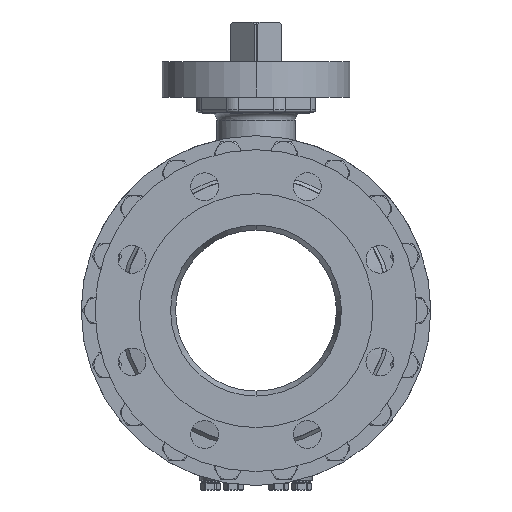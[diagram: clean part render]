
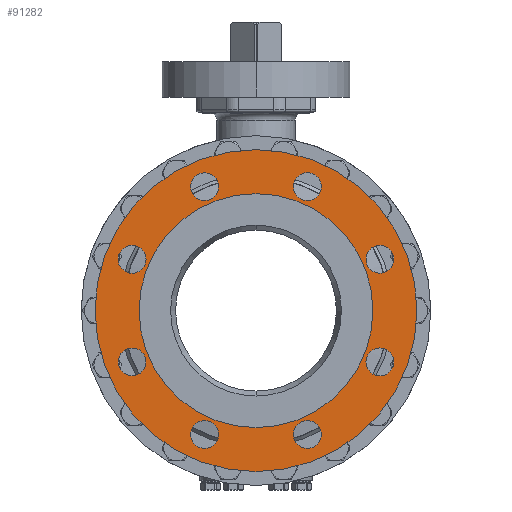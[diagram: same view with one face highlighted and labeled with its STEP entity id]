
A CAD part, left-side view. The second image highlights one B-rep face of the part: STEP entity #91282.
In plain terms, the highlighted planar face has unit normal (-1, 0, 0).
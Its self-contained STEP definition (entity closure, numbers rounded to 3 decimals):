
#14518=CARTESIAN_POINT('',(-198.5,0.,0.));
#14519=DIRECTION('',(-1.,0.,0.));
#14520=DIRECTION('',(0.,0.,1.));
#14521=AXIS2_PLACEMENT_3D('',#14518,#14519,#14520);
#14523=CARTESIAN_POINT('',(-198.5,0.,0.));
#14524=DIRECTION('',(-1.,0.,0.));
#14525=DIRECTION('',(0.,0.,-1.));
#14526=AXIS2_PLACEMENT_3D('',#14523,#14524,#14525);
#14528=CARTESIAN_POINT('',(-198.5,-47.835,115.485));
#14529=DIRECTION('',(-1.,0.,0.));
#14530=DIRECTION('',(0.,-1.,0.));
#14531=AXIS2_PLACEMENT_3D('',#14528,#14529,#14530);
#14533=CARTESIAN_POINT('',(-198.5,-47.835,115.485));
#14534=DIRECTION('',(-1.,0.,0.));
#14535=DIRECTION('',(0.,1.,0.));
#14536=AXIS2_PLACEMENT_3D('',#14533,#14534,#14535);
#14538=CARTESIAN_POINT('',(-198.5,47.835,115.485));
#14539=DIRECTION('',(-1.,0.,0.));
#14540=DIRECTION('',(0.,-0.707,0.707));
#14541=AXIS2_PLACEMENT_3D('',#14538,#14539,#14540);
#14543=CARTESIAN_POINT('',(-198.5,47.835,115.485));
#14544=DIRECTION('',(-1.,0.,0.));
#14545=DIRECTION('',(0.,0.707,-0.707));
#14546=AXIS2_PLACEMENT_3D('',#14543,#14544,#14545);
#14548=CARTESIAN_POINT('',(-198.5,115.485,47.835));
#14549=DIRECTION('',(-1.,0.,0.));
#14550=DIRECTION('',(0.,0.,1.));
#14551=AXIS2_PLACEMENT_3D('',#14548,#14549,#14550);
#14553=CARTESIAN_POINT('',(-198.5,115.485,47.835));
#14554=DIRECTION('',(-1.,0.,0.));
#14555=DIRECTION('',(0.,0.,-1.));
#14556=AXIS2_PLACEMENT_3D('',#14553,#14554,#14555);
#14558=CARTESIAN_POINT('',(-198.5,115.485,-47.835));
#14559=DIRECTION('',(-1.,0.,0.));
#14560=DIRECTION('',(0.,0.707,0.707));
#14561=AXIS2_PLACEMENT_3D('',#14558,#14559,#14560);
#14563=CARTESIAN_POINT('',(-198.5,115.485,-47.835));
#14564=DIRECTION('',(-1.,0.,0.));
#14565=DIRECTION('',(0.,-0.707,-0.707));
#14566=AXIS2_PLACEMENT_3D('',#14563,#14564,#14565);
#14568=CARTESIAN_POINT('',(-198.5,47.835,-115.485));
#14569=DIRECTION('',(-1.,0.,0.));
#14570=DIRECTION('',(0.,1.,0.));
#14571=AXIS2_PLACEMENT_3D('',#14568,#14569,#14570);
#14573=CARTESIAN_POINT('',(-198.5,47.835,-115.485));
#14574=DIRECTION('',(-1.,0.,0.));
#14575=DIRECTION('',(0.,-1.,0.));
#14576=AXIS2_PLACEMENT_3D('',#14573,#14574,#14575);
#14578=CARTESIAN_POINT('',(-198.5,-47.835,-115.485));
#14579=DIRECTION('',(-1.,0.,0.));
#14580=DIRECTION('',(0.,0.707,-0.707));
#14581=AXIS2_PLACEMENT_3D('',#14578,#14579,#14580);
#14583=CARTESIAN_POINT('',(-198.5,-47.835,-115.485));
#14584=DIRECTION('',(-1.,0.,0.));
#14585=DIRECTION('',(0.,-0.707,0.707));
#14586=AXIS2_PLACEMENT_3D('',#14583,#14584,#14585);
#14588=CARTESIAN_POINT('',(-198.5,-115.485,-47.835));
#14589=DIRECTION('',(-1.,0.,0.));
#14590=DIRECTION('',(0.,0.,-1.));
#14591=AXIS2_PLACEMENT_3D('',#14588,#14589,#14590);
#14593=CARTESIAN_POINT('',(-198.5,-115.485,-47.835));
#14594=DIRECTION('',(-1.,0.,0.));
#14595=DIRECTION('',(0.,0.,1.));
#14596=AXIS2_PLACEMENT_3D('',#14593,#14594,#14595);
#14598=CARTESIAN_POINT('',(-198.5,-115.485,47.835));
#14599=DIRECTION('',(-1.,0.,0.));
#14600=DIRECTION('',(0.,-0.707,-0.707));
#14601=AXIS2_PLACEMENT_3D('',#14598,#14599,#14600);
#14603=CARTESIAN_POINT('',(-198.5,-115.485,47.835));
#14604=DIRECTION('',(-1.,0.,0.));
#14605=DIRECTION('',(0.,0.707,0.707));
#14606=AXIS2_PLACEMENT_3D('',#14603,#14604,#14605);
#14612=CARTESIAN_POINT('',(-198.5,0.,0.));
#14613=DIRECTION('',(-1.,0.,0.));
#14614=DIRECTION('',(0.,0.,1.));
#14615=AXIS2_PLACEMENT_3D('',#14612,#14613,#14614);
#14641=CARTESIAN_POINT('',(-198.5,0.,0.));
#14642=DIRECTION('',(1.,0.,0.));
#14643=DIRECTION('',(0.,0.,1.));
#14644=AXIS2_PLACEMENT_3D('',#14641,#14642,#14643);
#57965=CARTESIAN_POINT('',(-198.5,0.,109.));
#57966=CARTESIAN_POINT('',(-198.5,0.,-109.));
#57967=VERTEX_POINT('',#57965);
#57968=VERTEX_POINT('',#57966);
#57969=CARTESIAN_POINT('',(-198.5,0.,150.));
#57970=CARTESIAN_POINT('',(-198.5,0.,-150.));
#57971=VERTEX_POINT('',#57969);
#57972=VERTEX_POINT('',#57970);
#57981=CARTESIAN_POINT('',(-198.5,-60.835,115.485));
#57982=CARTESIAN_POINT('',(-198.5,-34.835,115.485));
#57983=VERTEX_POINT('',#57981);
#57984=VERTEX_POINT('',#57982);
#57989=CARTESIAN_POINT('',(-198.5,38.643,124.677));
#57990=CARTESIAN_POINT('',(-198.5,57.028,106.293));
#57991=VERTEX_POINT('',#57989);
#57992=VERTEX_POINT('',#57990);
#57997=CARTESIAN_POINT('',(-198.5,115.485,60.835));
#57998=CARTESIAN_POINT('',(-198.5,115.485,34.835));
#57999=VERTEX_POINT('',#57997);
#58000=VERTEX_POINT('',#57998);
#58005=CARTESIAN_POINT('',(-198.5,124.677,-38.643));
#58006=CARTESIAN_POINT('',(-198.5,106.293,-57.028));
#58007=VERTEX_POINT('',#58005);
#58008=VERTEX_POINT('',#58006);
#58013=CARTESIAN_POINT('',(-198.5,60.835,-115.485));
#58014=CARTESIAN_POINT('',(-198.5,34.835,-115.485));
#58015=VERTEX_POINT('',#58013);
#58016=VERTEX_POINT('',#58014);
#58021=CARTESIAN_POINT('',(-198.5,-38.643,-124.677));
#58022=CARTESIAN_POINT('',(-198.5,-57.028,-106.293));
#58023=VERTEX_POINT('',#58021);
#58024=VERTEX_POINT('',#58022);
#58029=CARTESIAN_POINT('',(-198.5,-115.485,-60.835));
#58030=CARTESIAN_POINT('',(-198.5,-115.485,-34.835));
#58031=VERTEX_POINT('',#58029);
#58032=VERTEX_POINT('',#58030);
#58037=CARTESIAN_POINT('',(-198.5,-124.677,38.643));
#58038=CARTESIAN_POINT('',(-198.5,-106.293,57.028));
#58039=VERTEX_POINT('',#58037);
#58040=VERTEX_POINT('',#58038);
#91218=CARTESIAN_POINT('',(-198.5,0.,0.));
#91219=DIRECTION('',(1.,0.,0.));
#91220=DIRECTION('',(0.,0.,1.));
#91221=AXIS2_PLACEMENT_3D('',#91218,#91219,#91220);
#91222=PLANE('',#91221);
#91224=ORIENTED_EDGE('',*,*,#91223,.F.);
#91225=ORIENTED_EDGE('',*,*,#91208,.F.);
#91226=EDGE_LOOP('',(#91224,#91225));
#91227=FACE_OUTER_BOUND('',#91226,.F.);
#91229=ORIENTED_EDGE('',*,*,#91228,.T.);
#91231=ORIENTED_EDGE('',*,*,#91230,.F.);
#91232=EDGE_LOOP('',(#91229,#91231));
#91233=FACE_BOUND('',#91232,.F.);
#91235=ORIENTED_EDGE('',*,*,#91234,.T.);
#91237=ORIENTED_EDGE('',*,*,#91236,.T.);
#91238=EDGE_LOOP('',(#91235,#91237));
#91239=FACE_BOUND('',#91238,.F.);
#91241=ORIENTED_EDGE('',*,*,#91240,.T.);
#91243=ORIENTED_EDGE('',*,*,#91242,.T.);
#91244=EDGE_LOOP('',(#91241,#91243));
#91245=FACE_BOUND('',#91244,.F.);
#91247=ORIENTED_EDGE('',*,*,#91246,.T.);
#91249=ORIENTED_EDGE('',*,*,#91248,.T.);
#91250=EDGE_LOOP('',(#91247,#91249));
#91251=FACE_BOUND('',#91250,.F.);
#91253=ORIENTED_EDGE('',*,*,#91252,.T.);
#91255=ORIENTED_EDGE('',*,*,#91254,.T.);
#91256=EDGE_LOOP('',(#91253,#91255));
#91257=FACE_BOUND('',#91256,.F.);
#91259=ORIENTED_EDGE('',*,*,#91258,.T.);
#91261=ORIENTED_EDGE('',*,*,#91260,.T.);
#91262=EDGE_LOOP('',(#91259,#91261));
#91263=FACE_BOUND('',#91262,.F.);
#91265=ORIENTED_EDGE('',*,*,#91264,.T.);
#91267=ORIENTED_EDGE('',*,*,#91266,.T.);
#91268=EDGE_LOOP('',(#91265,#91267));
#91269=FACE_BOUND('',#91268,.F.);
#91271=ORIENTED_EDGE('',*,*,#91270,.T.);
#91273=ORIENTED_EDGE('',*,*,#91272,.T.);
#91274=EDGE_LOOP('',(#91271,#91273));
#91275=FACE_BOUND('',#91274,.F.);
#91277=ORIENTED_EDGE('',*,*,#91276,.T.);
#91279=ORIENTED_EDGE('',*,*,#91278,.T.);
#91280=EDGE_LOOP('',(#91277,#91279));
#91281=FACE_BOUND('',#91280,.F.);
#91282=ADVANCED_FACE('',(#91227,#91233,#91239,#91245,#91251,#91257,#91263,
#91269,#91275,#91281),#91222,.F.);
#14522=CIRCLE('',#14521,150.);
#14527=CIRCLE('',#14526,150.);
#14532=CIRCLE('',#14531,13.);
#14537=CIRCLE('',#14536,13.);
#14542=CIRCLE('',#14541,13.);
#14547=CIRCLE('',#14546,13.);
#14552=CIRCLE('',#14551,13.);
#14557=CIRCLE('',#14556,13.);
#14562=CIRCLE('',#14561,13.);
#14567=CIRCLE('',#14566,13.);
#14572=CIRCLE('',#14571,13.);
#14577=CIRCLE('',#14576,13.);
#14582=CIRCLE('',#14581,13.);
#14587=CIRCLE('',#14586,13.);
#14592=CIRCLE('',#14591,13.);
#14597=CIRCLE('',#14596,13.);
#14602=CIRCLE('',#14601,13.);
#14607=CIRCLE('',#14606,13.);
#14616=CIRCLE('',#14615,109.);
#14645=CIRCLE('',#14644,109.);
#91208=EDGE_CURVE('',#57972,#57971,#14527,.T.);
#91223=EDGE_CURVE('',#57971,#57972,#14522,.T.);
#91228=EDGE_CURVE('',#57967,#57968,#14616,.T.);
#91230=EDGE_CURVE('',#57967,#57968,#14645,.T.);
#91234=EDGE_CURVE('',#57983,#57984,#14532,.T.);
#91236=EDGE_CURVE('',#57984,#57983,#14537,.T.);
#91240=EDGE_CURVE('',#57991,#57992,#14542,.T.);
#91242=EDGE_CURVE('',#57992,#57991,#14547,.T.);
#91246=EDGE_CURVE('',#57999,#58000,#14552,.T.);
#91248=EDGE_CURVE('',#58000,#57999,#14557,.T.);
#91252=EDGE_CURVE('',#58007,#58008,#14562,.T.);
#91254=EDGE_CURVE('',#58008,#58007,#14567,.T.);
#91258=EDGE_CURVE('',#58015,#58016,#14572,.T.);
#91260=EDGE_CURVE('',#58016,#58015,#14577,.T.);
#91264=EDGE_CURVE('',#58023,#58024,#14582,.T.);
#91266=EDGE_CURVE('',#58024,#58023,#14587,.T.);
#91270=EDGE_CURVE('',#58031,#58032,#14592,.T.);
#91272=EDGE_CURVE('',#58032,#58031,#14597,.T.);
#91276=EDGE_CURVE('',#58039,#58040,#14602,.T.);
#91278=EDGE_CURVE('',#58040,#58039,#14607,.T.);
